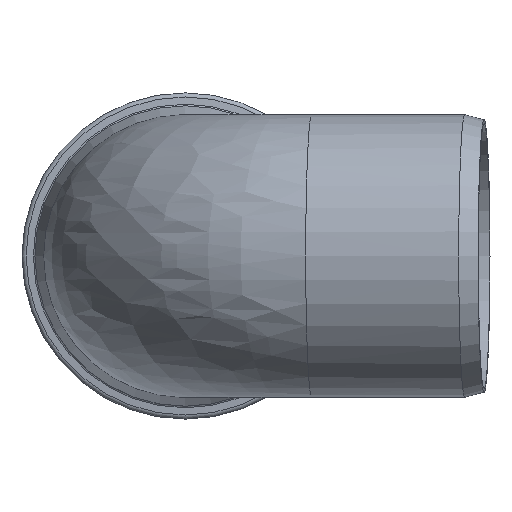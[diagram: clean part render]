
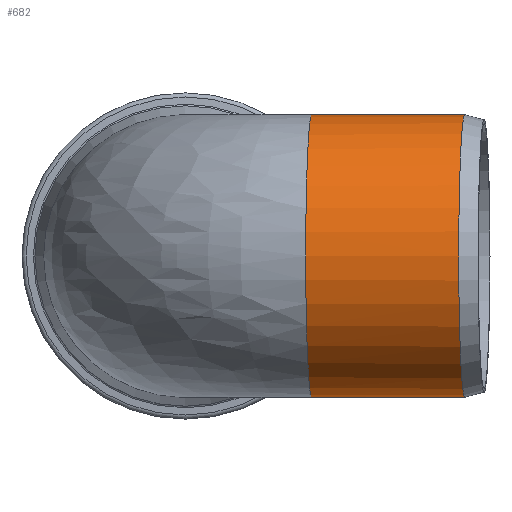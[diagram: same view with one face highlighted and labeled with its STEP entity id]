
A CAD part, front view. The second image highlights one B-rep face of the part: STEP entity #682.
In plain terms, the highlighted cylindrical face has radius 125.15 mm (diameter 250.3 mm), a full revolution.
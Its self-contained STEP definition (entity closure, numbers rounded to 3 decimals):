
#47=LINE('',#1318,#69);
#69=VECTOR('',#889,125.15);
#91=CYLINDRICAL_SURFACE('',#751,125.15);
#102=CIRCLE('',#749,125.15);
#104=CIRCLE('',#752,125.15);
#187=FACE_OUTER_BOUND('',#229,.T.);
#229=EDGE_LOOP('',(#469,#470,#471,#472,#473,#474));
#274=ELLIPSE('',#747,174.58,125.15);
#275=ELLIPSE('',#748,174.58,125.15);
#279=VERTEX_POINT('',#1179);
#282=VERTEX_POINT('',#1233);
#283=VERTEX_POINT('',#1283);
#284=VERTEX_POINT('',#1316);
#353=EDGE_CURVE('',#282,#283,#274,.T.);
#354=EDGE_CURVE('',#283,#279,#275,.T.);
#355=EDGE_CURVE('',#282,#279,#102,.T.);
#357=EDGE_CURVE('',#284,#284,#104,.T.);
#358=EDGE_CURVE('',#284,#283,#47,.T.);
#469=ORIENTED_EDGE('',*,*,#357,.F.);
#470=ORIENTED_EDGE('',*,*,#358,.T.);
#471=ORIENTED_EDGE('',*,*,#353,.F.);
#472=ORIENTED_EDGE('',*,*,#355,.T.);
#473=ORIENTED_EDGE('',*,*,#354,.F.);
#474=ORIENTED_EDGE('',*,*,#358,.F.);
#682=ADVANCED_FACE('',(#187),#91,.T.);
#747=AXIS2_PLACEMENT_3D('',#1284,#877,#878);
#748=AXIS2_PLACEMENT_3D('',#1285,#879,#880);
#749=AXIS2_PLACEMENT_3D('',#1313,#881,#882);
#751=AXIS2_PLACEMENT_3D('',#1315,#885,#886);
#752=AXIS2_PLACEMENT_3D('',#1317,#887,#888);
#877=DIRECTION('center_axis',(-0.686,0.728,0.));
#878=DIRECTION('ref_axis',(0.728,0.686,0.));
#879=DIRECTION('center_axis',(-0.686,0.728,0.));
#880=DIRECTION('ref_axis',(0.728,0.686,0.));
#881=DIRECTION('center_axis',(0.999,-0.044,0.));
#882=DIRECTION('ref_axis',(0.044,0.999,0.));
#885=DIRECTION('center_axis',(0.999,-0.044,0.));
#886=DIRECTION('ref_axis',(-0.044,-0.999,0.));
#887=DIRECTION('center_axis',(0.999,-0.044,0.));
#888=DIRECTION('ref_axis',(-0.044,-0.999,0.));
#889=DIRECTION('',(-0.999,0.044,0.));
#1179=CARTESIAN_POINT('',(117.269,110.494,-48.18));
#1233=CARTESIAN_POINT('',(117.269,110.494,48.18));
#1283=CARTESIAN_POINT('',(127.063,119.722,0.));
#1284=CARTESIAN_POINT('Origin',(0.,0.,
0.));
#1285=CARTESIAN_POINT('Origin',(0.,0.,
0.));
#1313=CARTESIAN_POINT('Origin',(112.231,-4.9,0.));
#1315=CARTESIAN_POINT('Origin',(179.997,-7.859,0.));
#1316=CARTESIAN_POINT('',(253.223,114.213,0.));
#1317=CARTESIAN_POINT('Origin',(247.764,-10.818,0.));
#1318=CARTESIAN_POINT('',(185.456,117.172,0.));
